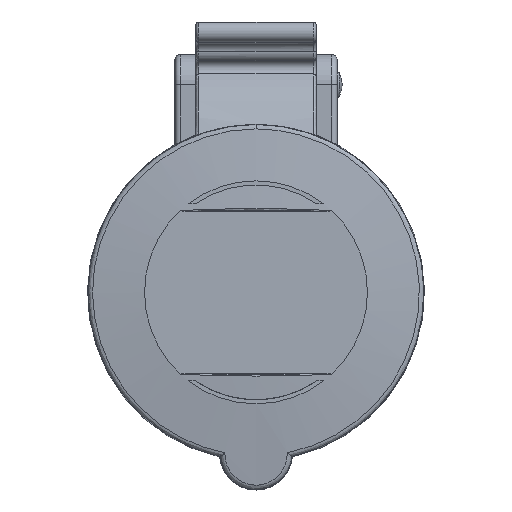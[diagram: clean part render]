
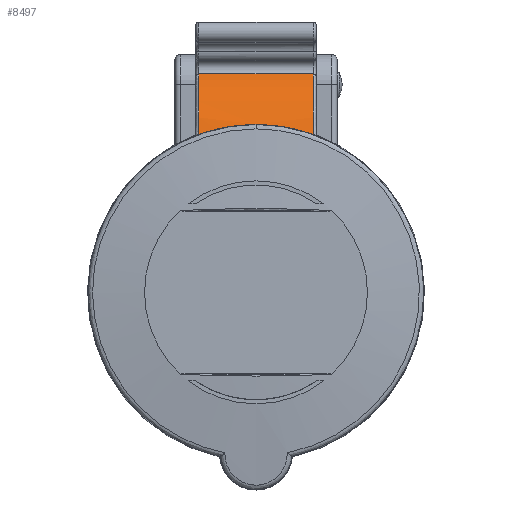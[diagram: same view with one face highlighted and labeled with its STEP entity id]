
A CAD part, top view. The second image highlights one B-rep face of the part: STEP entity #8497.
In plain terms, the highlighted cylindrical face has radius 21 mm (diameter 42 mm), a partial arc.
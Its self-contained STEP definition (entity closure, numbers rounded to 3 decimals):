
#3063=CYLINDRICAL_SURFACE('',#68859,21.);
#4799=FACE_OUTER_BOUND('',#20773,.T.);
#8497=ADVANCED_FACE('',(#4799),#3063,.T.);
#12614=LINE('',#136612,#16330);
#16330=VECTOR('',#77449,1.);
#20773=EDGE_LOOP('',(#35159,#35160,#35161,#35162,#35163));
#25467=B_SPLINE_CURVE_WITH_KNOTS('',3,(#136000,#136001,#136002,#136003,
#136004,#136005,#136006),.UNSPECIFIED.,.F.,.F.,(4,1,1,1,4),(0.,0.245,
0.497,0.748,1.),.UNSPECIFIED.);
#25481=B_SPLINE_CURVE_WITH_KNOTS('',3,(#136438,#136439,#136440,#136441),
 .UNSPECIFIED.,.F.,.F.,(4,4),(0.,1.),.UNSPECIFIED.);
#25548=B_SPLINE_CURVE_WITH_KNOTS('',3,(#138908,#138909,#138910,#138911),
 .UNSPECIFIED.,.F.,.F.,(4,4),(0.,1.),.UNSPECIFIED.);
#25549=B_SPLINE_CURVE_WITH_KNOTS('',3,(#138937,#138938,#138939,#138940),
 .UNSPECIFIED.,.F.,.F.,(4,4),(0.,1.),.UNSPECIFIED.);
#35159=ORIENTED_EDGE('',*,*,#58173,.T.);
#35160=ORIENTED_EDGE('',*,*,#58200,.T.);
#35161=ORIENTED_EDGE('',*,*,#58149,.F.);
#35162=ORIENTED_EDGE('',*,*,#58431,.T.);
#35163=ORIENTED_EDGE('',*,*,#58435,.T.);
#50587=VERTEX_POINT('',#136007);
#50588=VERTEX_POINT('',#136008);
#50604=VERTEX_POINT('',#136437);
#50605=VERTEX_POINT('',#136442);
#50771=VERTEX_POINT('',#138907);
#58149=EDGE_CURVE('',#50587,#50588,#25467,.T.);
#58173=EDGE_CURVE('',#50605,#50604,#25481,.T.);
#58200=EDGE_CURVE('',#50604,#50588,#12614,.T.);
#58431=EDGE_CURVE('',#50587,#50771,#25548,.T.);
#58435=EDGE_CURVE('',#50771,#50605,#25549,.T.);
#68859=AXIS2_PLACEMENT_3D('',#139075,#77792,#77793);
#77449=DIRECTION('',(-1.,0.,0.));
#77792=DIRECTION('',(-1.,0.,0.));
#77793=DIRECTION('',(0.,0.,-1.));
#136000=CARTESIAN_POINT('',(-11.35,31.153,7.858));
#136001=CARTESIAN_POINT('',(-11.35,32.327,7.561));
#136002=CARTESIAN_POINT('',(-11.35,34.661,6.75));
#136003=CARTESIAN_POINT('',(-11.35,37.906,4.933));
#136004=CARTESIAN_POINT('',(-11.35,40.806,2.549));
#136005=CARTESIAN_POINT('',(-11.35,42.428,0.64));
#136006=CARTESIAN_POINT('',(-11.35,43.147,-0.376));
#136007=CARTESIAN_POINT('',(-11.35,31.153,7.858));
#136008=CARTESIAN_POINT('',(-11.35,43.147,-0.376));
#136437=CARTESIAN_POINT('',(11.35,43.147,-0.376));
#136438=CARTESIAN_POINT('',(11.35,31.153,7.858));
#136439=CARTESIAN_POINT('',(11.35,35.954,6.643));
#136440=CARTESIAN_POINT('',(11.35,40.288,3.667));
#136441=CARTESIAN_POINT('',(11.35,43.147,-0.376));
#136442=CARTESIAN_POINT('',(11.35,31.153,7.858));
#136612=CARTESIAN_POINT('',(11.35,43.147,-0.376));
#138907=CARTESIAN_POINT('',(0.,33.167,7.239));
#138908=CARTESIAN_POINT('',(-11.35,31.153,7.858));
#138909=CARTESIAN_POINT('',(-7.692,32.492,7.519));
#138910=CARTESIAN_POINT('',(-3.914,33.167,7.239));
#138911=CARTESIAN_POINT('',(0.,33.167,7.239));
#138937=CARTESIAN_POINT('',(0.,33.167,7.239));
#138938=CARTESIAN_POINT('',(3.914,33.167,7.239));
#138939=CARTESIAN_POINT('',(7.692,32.492,7.519));
#138940=CARTESIAN_POINT('',(11.35,31.153,7.858));
#139075=CARTESIAN_POINT('',(11.85,26.,-12.5));
